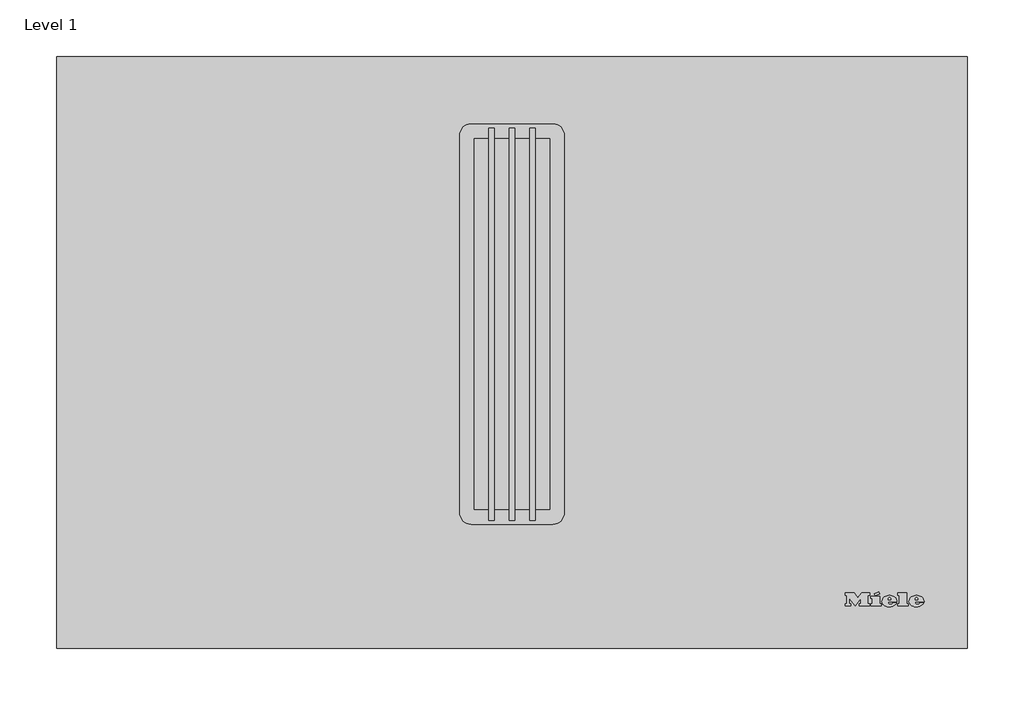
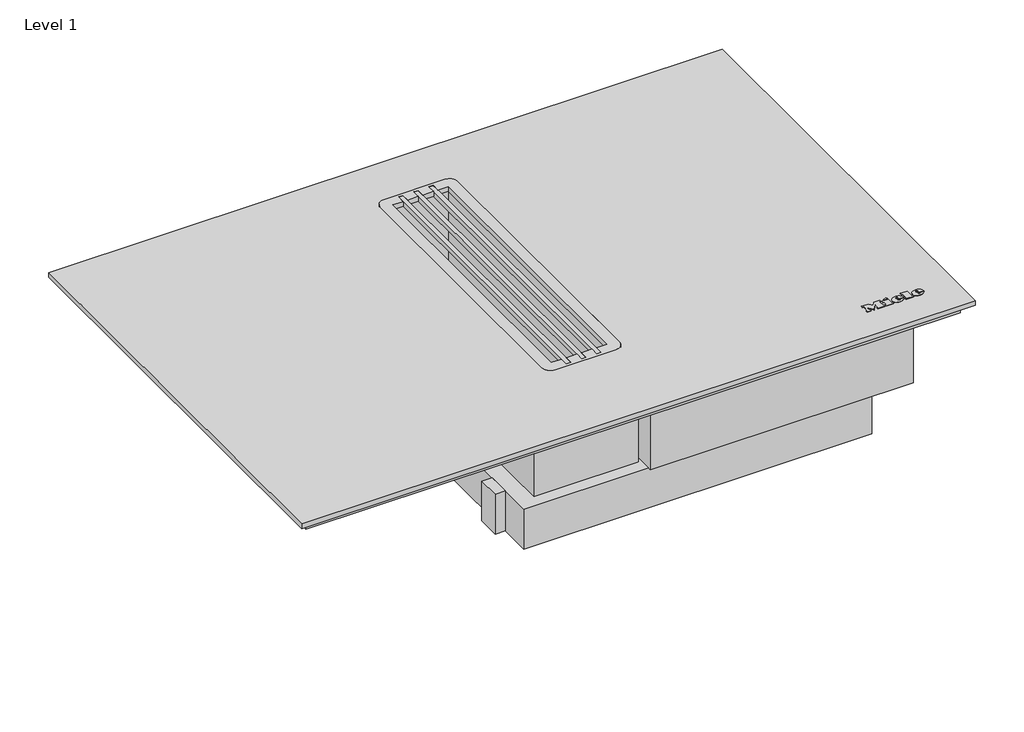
# One storey: 1 proxy.
"""IFC4 building model written with IfcOpenShell, lengths in millimetres."""

from ifc_helpers import new_model, si_unit, origin, place, context, project, spatial, transform, mapped, element, save
from components import specialty_equipment_c7db01c0

model = new_model("IFC4")

# Units and contexts
model_context = context("Model", 3, world=origin())
ifc_project = project(units=[si_unit("LENGTHUNIT", "METRE", prefix="MILLI")], contexts=[model_context])

# Site, building, storey
site = spatial("IfcSite", under=ifc_project)
building = spatial("IfcBuilding", under=site)
storey = spatial("IfcBuildingStorey", under=building, Name="Level 1", Elevation=0.0)

# Proxy
placement = place(None, origin())
specialty_equipment_shape = specialty_equipment_c7db01c0(model_context)
element("IfcBuildingElementProxy", 1, Name="11390370_D_KMDA7634FL : 26763472_D_11390370_KMDA7634FL", ObjectType="11390370_D_KMDA7634FL : 26763472_D_11390370_KMDA7634FL", at=placement, inside=storey, context=model_context, shape_type="MappedRepresentation", body=[
    mapped(specialty_equipment_shape, transform((0.0, 0.0, 0.0), x_axis=(1.0, 0.0, 0.0), y_axis=(0.0, 1.0, 0.0), z_axis=(0.0, 0.0, 1.0))),
])

save(model, "model.ifc")
